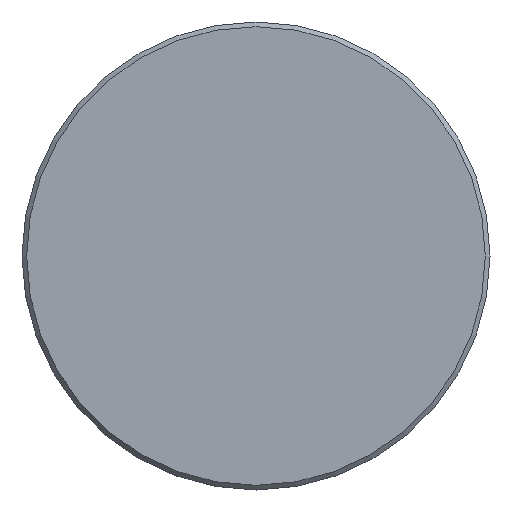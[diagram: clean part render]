
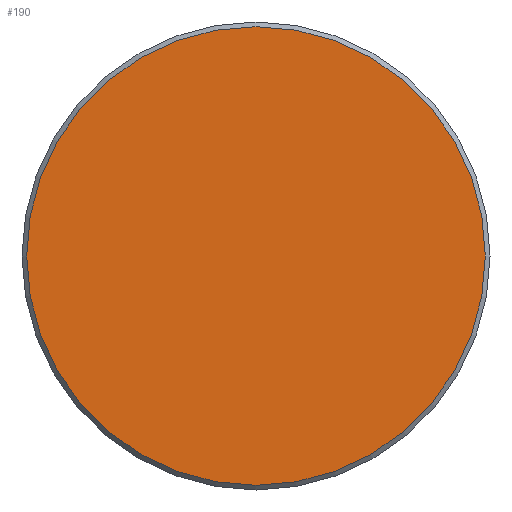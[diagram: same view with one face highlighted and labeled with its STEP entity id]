
A CAD part, front view. The second image highlights one B-rep face of the part: STEP entity #190.
In plain terms, the highlighted planar face has unit normal (0, -1, 0).
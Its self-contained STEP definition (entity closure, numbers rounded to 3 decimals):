
#190 = ADVANCED_FACE( '', ( #372 ), #373, .F. );
#372 = FACE_OUTER_BOUND( '', #568, .T. );
#373 = PLANE( '', #569 );
#568 = EDGE_LOOP( '', ( #873 ) );
#569 = AXIS2_PLACEMENT_3D( '', #874, #875, #876 );
#873 = ORIENTED_EDGE( '', *, *, #1190, .T. );
#874 = CARTESIAN_POINT( '', ( 24.5, 0., 0. ) );
#875 = DIRECTION( '', ( 0., 1., 0. ) );
#876 = DIRECTION( '', ( 0., 0., 1. ) );
#1190 = EDGE_CURVE( '', #1396, #1396, #1397, .T. );
#1396 = VERTEX_POINT( '', #1822 );
#1397 = CIRCLE( '', #1823, 24.5 );
#1822 = CARTESIAN_POINT( '', ( 0., 0., -24.5 ) );
#1823 = AXIS2_PLACEMENT_3D( '', #2055, #2056, #2057 );
#2055 = CARTESIAN_POINT( '', ( 0., 0., 0. ) );
#2056 = DIRECTION( '', ( 0., -1., 0. ) );
#2057 = DIRECTION( '', ( 0., 0., -1. ) );
